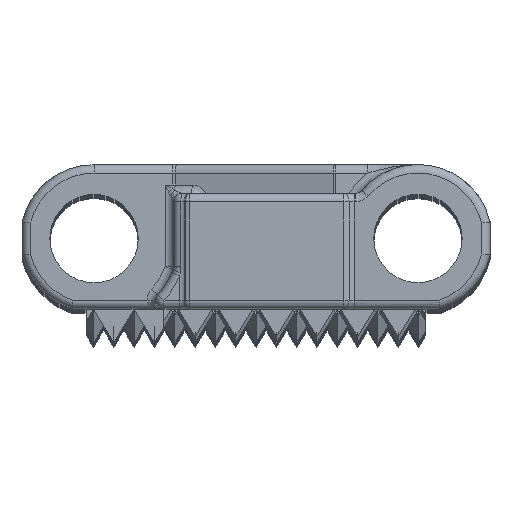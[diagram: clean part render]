
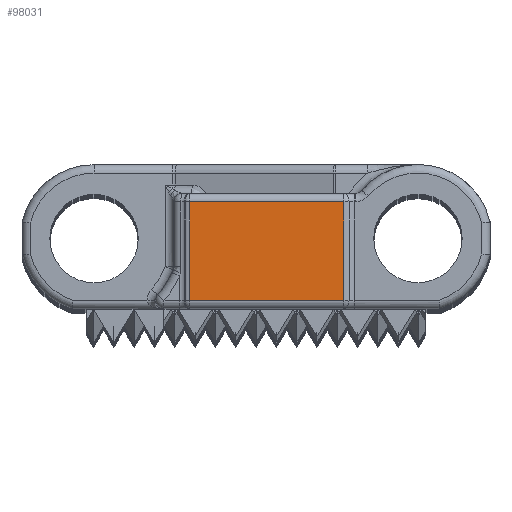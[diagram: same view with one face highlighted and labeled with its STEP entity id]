
A CAD part, top view. The second image highlights one B-rep face of the part: STEP entity #98031.
In plain terms, the highlighted planar face has unit normal (0, 0, 1).
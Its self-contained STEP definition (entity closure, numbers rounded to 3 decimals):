
#24484=DIRECTION('',(1.,0.,0.));
#24485=VECTOR('',#24484,9.067);
#24486=CARTESIAN_POINT('',(-3.892,-3.65,76.2));
#24487=LINE('',#24486,#24485);
#24488=DIRECTION('',(0.,-1.,0.));
#24489=VECTOR('',#24488,5.8);
#24490=CARTESIAN_POINT('',(-3.892,2.15,76.2));
#24491=LINE('',#24490,#24489);
#24492=DIRECTION('',(-1.,0.,0.));
#24493=VECTOR('',#24492,9.067);
#24494=CARTESIAN_POINT('',(5.175,2.15,76.2));
#24495=LINE('',#24494,#24493);
#24496=DIRECTION('',(0.,-1.,0.));
#24497=VECTOR('',#24496,5.8);
#24498=CARTESIAN_POINT('',(5.175,2.15,76.2));
#24499=LINE('',#24498,#24497);
#48142=CARTESIAN_POINT('',(5.175,-3.65,76.2));
#48143=VERTEX_POINT('',#48142);
#48144=CARTESIAN_POINT('',(-3.892,-3.65,76.2));
#48145=VERTEX_POINT('',#48144);
#48172=CARTESIAN_POINT('',(5.175,2.15,76.2));
#48173=VERTEX_POINT('',#48172);
#48178=CARTESIAN_POINT('',(-3.892,2.15,76.2));
#48179=VERTEX_POINT('',#48178);
#98017=CARTESIAN_POINT('',(-4.043,-4.15,76.2));
#98018=DIRECTION('',(0.,0.,1.));
#98019=DIRECTION('',(1.,0.,0.));
#98020=AXIS2_PLACEMENT_3D('',#98017,#98018,#98019);
#98021=PLANE('',#98020);
#98023=ORIENTED_EDGE('',*,*,#98022,.F.);
#98025=ORIENTED_EDGE('',*,*,#98024,.F.);
#98027=ORIENTED_EDGE('',*,*,#98026,.F.);
#98028=ORIENTED_EDGE('',*,*,#98008,.T.);
#98029=EDGE_LOOP('',(#98023,#98025,#98027,#98028));
#98030=FACE_OUTER_BOUND('',#98029,.F.);
#98008=EDGE_CURVE('',#48173,#48143,#24499,.T.);
#98022=EDGE_CURVE('',#48145,#48143,#24487,.T.);
#98024=EDGE_CURVE('',#48179,#48145,#24491,.T.);
#98026=EDGE_CURVE('',#48173,#48179,#24495,.T.);
#98031=ADVANCED_FACE('',(#98030),#98021,.T.);
